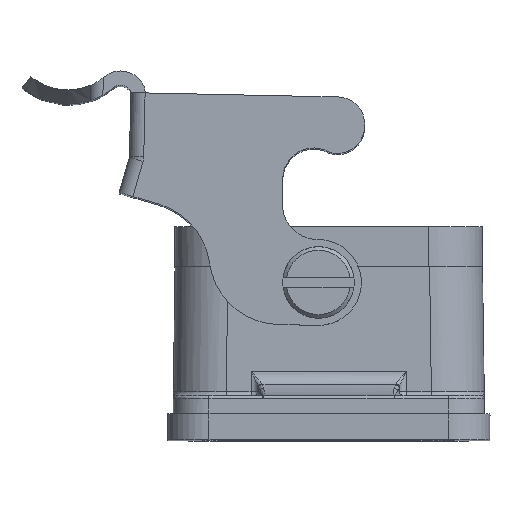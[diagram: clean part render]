
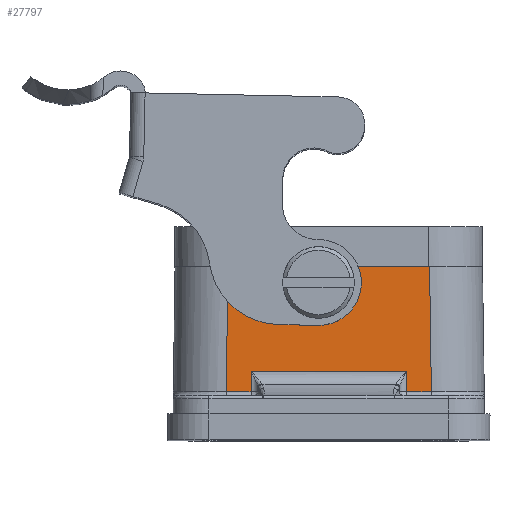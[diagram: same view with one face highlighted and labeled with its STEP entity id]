
A CAD part, top view. The second image highlights one B-rep face of the part: STEP entity #27797.
In plain terms, the highlighted planar face has unit normal (0, 0.014, 1).
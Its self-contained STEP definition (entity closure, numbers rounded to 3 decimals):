
#1239 = VECTOR ( 'NONE', #30048, 1000. ) ;
#2094 = CARTESIAN_POINT ( 'NONE',  ( -10.869, -20.276, 123.315 ) ) ;
#2875 = EDGE_CURVE ( 'NONE', #15206, #18208, #30159, .T. ) ;
#3304 = VECTOR ( 'NONE', #6147, 1000. ) ;
#4089 = VECTOR ( 'NONE', #27678, 1000. ) ;
#4577 = ORIENTED_EDGE ( 'NONE', *, *, #10819, .F. ) ;
#4770 = LINE ( 'NONE', #17501, #13953 ) ;
#4936 = VERTEX_POINT ( 'NONE', #5283 ) ;
#5283 = CARTESIAN_POINT ( 'NONE',  ( -14.101, -5.6, 123.11 ) ) ;
#5695 = ORIENTED_EDGE ( 'NONE', *, *, #30711, .T. ) ;
#6147 = DIRECTION ( 'NONE',  ( 1., 0., 0. ) ) ;
#6799 = VERTEX_POINT ( 'NONE', #15047 ) ;
#7646 = EDGE_LOOP ( 'NONE', ( #29007, #9276, #23411, #10409, #29711, #5695, #4577, #24265 ) ) ;
#8009 = AXIS2_PLACEMENT_3D ( 'NONE', #22977, #17972, #25449 ) ;
#8093 = CARTESIAN_POINT ( 'NONE',  ( 0., -5.6, 123.11 ) ) ;
#8205 = FACE_OUTER_BOUND ( 'NONE', #7646, .T. ) ;
#8231 = EDGE_CURVE ( 'NONE', #6799, #29262, #4770, .T. ) ;
#8334 = CARTESIAN_POINT ( 'NONE',  ( -14.345, -23.107, 123.355 ) ) ;
#9276 = ORIENTED_EDGE ( 'NONE', *, *, #2875, .T. ) ;
#9485 = DIRECTION ( 'NONE',  ( 1., 0., 0. ) ) ;
#10409 = ORIENTED_EDGE ( 'NONE', *, *, #8231, .T. ) ;
#10520 = CARTESIAN_POINT ( 'NONE',  ( -14.101, -5.6, 123.11 ) ) ;
#10819 = EDGE_CURVE ( 'NONE', #4936, #19496, #18533, .T. ) ;
#10961 = CARTESIAN_POINT ( 'NONE',  ( -14.345, -23.107, 123.355 ) ) ;
#13197 = LINE ( 'NONE', #21805, #15877 ) ;
#13200 = B_SPLINE_CURVE_WITH_KNOTS ( 'NONE', 3,
 ( #10520, #18371, #25620, #10961 ),
 .UNSPECIFIED., .F., .F.,
 ( 4, 4 ),
 ( 0., 1. ),
 .UNSPECIFIED. ) ;
#13377 = EDGE_CURVE ( 'NONE', #4936, #23934, #13200, .T. ) ;
#13953 = VECTOR ( 'NONE', #24870, 1000. ) ;
#14467 = VECTOR ( 'NONE', #16904, 1000. ) ;
#15047 = CARTESIAN_POINT ( 'NONE',  ( 10.869, -20.276, 123.315 ) ) ;
#15206 = VERTEX_POINT ( 'NONE', #26511 ) ;
#15455 = CARTESIAN_POINT ( 'NONE',  ( -10.869, -14.353, 123.233 ) ) ;
#15877 = VECTOR ( 'NONE', #9485, 1000. ) ;
#16384 = LINE ( 'NONE', #20532, #3304 ) ;
#16904 = DIRECTION ( 'NONE',  ( 1., 0., 0. ) ) ;
#17076 = EDGE_CURVE ( 'NONE', #29262, #31277, #16384, .T. ) ;
#17501 = CARTESIAN_POINT ( 'NONE',  ( 10.869, -14.353, 123.233 ) ) ;
#17972 = DIRECTION ( 'NONE',  ( 0., 0.014, 1. ) ) ;
#18208 = VERTEX_POINT ( 'NONE', #2094 ) ;
#18371 = CARTESIAN_POINT ( 'NONE',  ( -14.182, -11.436, 123.192 ) ) ;
#18533 = LINE ( 'NONE', #8093, #1239 ) ;
#19496 = VERTEX_POINT ( 'NONE', #29360 ) ;
#19520 = DIRECTION ( 'NONE',  ( -0.014, 1., -0.014 ) ) ;
#19608 = VECTOR ( 'NONE', #19520, 1000. ) ;
#20532 = CARTESIAN_POINT ( 'NONE',  ( 0., -23.107, 123.355 ) ) ;
#21265 = EDGE_CURVE ( 'NONE', #23934, #15206, #24463, .T. ) ;
#21805 = CARTESIAN_POINT ( 'NONE',  ( 0., -20.276, 123.315 ) ) ;
#22172 = CARTESIAN_POINT ( 'NONE',  ( 14.223, -14.376, 123.233 ) ) ;
#22179 = CARTESIAN_POINT ( 'NONE',  ( 10.869, -23.107, 123.355 ) ) ;
#22977 = CARTESIAN_POINT ( 'NONE',  ( 14.919, -5.25, 123.106 ) ) ;
#23411 = ORIENTED_EDGE ( 'NONE', *, *, #25824, .T. ) ;
#23934 = VERTEX_POINT ( 'NONE', #8334 ) ;
#24265 = ORIENTED_EDGE ( 'NONE', *, *, #13377, .T. ) ;
#24463 = LINE ( 'NONE', #31533, #14467 ) ;
#24870 = DIRECTION ( 'NONE',  ( 0., -1., 0.014 ) ) ;
#25337 = PLANE ( 'NONE',  #8009 ) ;
#25449 = DIRECTION ( 'NONE',  ( -1., 0., 0. ) ) ;
#25620 = CARTESIAN_POINT ( 'NONE',  ( -14.263, -17.271, 123.273 ) ) ;
#25824 = EDGE_CURVE ( 'NONE', #18208, #6799, #13197, .T. ) ;
#26511 = CARTESIAN_POINT ( 'NONE',  ( -10.869, -23.107, 123.355 ) ) ;
#27678 = DIRECTION ( 'NONE',  ( 0., 1., -0.014 ) ) ;
#27797 = ADVANCED_FACE ( 'NONE', ( #8205 ), #25337, .T. ) ;
#28285 = CARTESIAN_POINT ( 'NONE',  ( 14.345, -23.107, 123.355 ) ) ;
#29007 = ORIENTED_EDGE ( 'NONE', *, *, #21265, .T. ) ;
#29262 = VERTEX_POINT ( 'NONE', #22179 ) ;
#29360 = CARTESIAN_POINT ( 'NONE',  ( 14.101, -5.6, 123.11 ) ) ;
#29711 = ORIENTED_EDGE ( 'NONE', *, *, #17076, .T. ) ;
#30048 = DIRECTION ( 'NONE',  ( 1., 0., 0. ) ) ;
#30159 = LINE ( 'NONE', #15455, #4089 ) ;
#30711 = EDGE_CURVE ( 'NONE', #31277, #19496, #31460, .T. ) ;
#31277 = VERTEX_POINT ( 'NONE', #28285 ) ;
#31460 = LINE ( 'NONE', #22172, #19608 ) ;
#31533 = CARTESIAN_POINT ( 'NONE',  ( 0., -23.107, 123.355 ) ) ;
